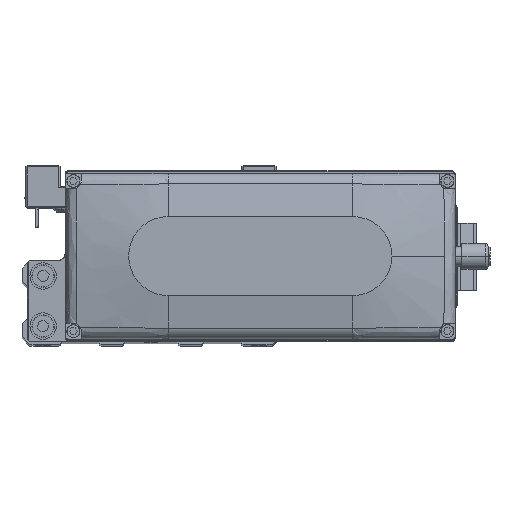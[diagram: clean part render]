
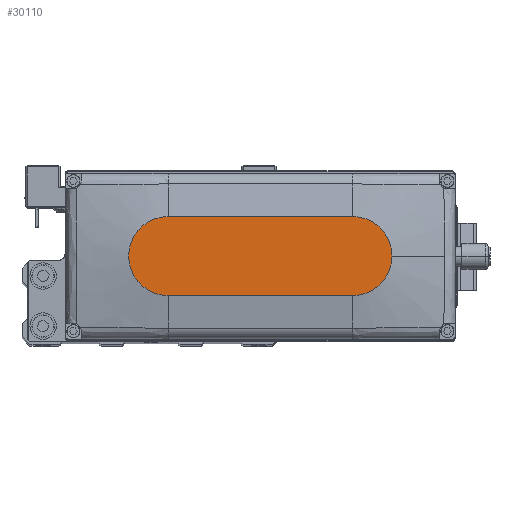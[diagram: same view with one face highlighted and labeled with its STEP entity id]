
A CAD part, top view. The second image highlights one B-rep face of the part: STEP entity #30110.
In plain terms, the highlighted planar face has unit normal (0, 0, 1).
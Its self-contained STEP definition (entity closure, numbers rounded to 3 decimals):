
#22 = CARTESIAN_POINT ( 'NONE',  ( 35., 0., 35. ) ) ;
#1144 = DIRECTION ( 'NONE',  ( 0., 0., 1. ) ) ;
#2171 = CARTESIAN_POINT ( 'NONE',  ( -35., 15., 35. ) ) ;
#2760 = DIRECTION ( 'NONE',  ( 1., 0., 0. ) ) ;
#3242 = DIRECTION ( 'NONE',  ( 1., 0., 0. ) ) ;
#4199 = FACE_OUTER_BOUND ( 'NONE', #34850, .T. ) ;
#4408 = VECTOR ( 'NONE', #3242, 1000. ) ;
#4426 = EDGE_CURVE ( 'NONE', #17805, #24352, #15835, .T. ) ;
#5738 = VERTEX_POINT ( 'NONE', #28177 ) ;
#6218 = CARTESIAN_POINT ( 'NONE',  ( -35., 0., 35. ) ) ;
#6792 = VERTEX_POINT ( 'NONE', #23490 ) ;
#7021 = EDGE_CURVE ( 'NONE', #30704, #6792, #30604, .T. ) ;
#7121 = ORIENTED_EDGE ( 'NONE', *, *, #7021, .T. ) ;
#11665 = AXIS2_PLACEMENT_3D ( 'NONE', #22, #12429, #24807 ) ;
#12146 = ORIENTED_EDGE ( 'NONE', *, *, #37987, .T. ) ;
#12429 = DIRECTION ( 'NONE',  ( 0., 0., 1. ) ) ;
#13058 = AXIS2_PLACEMENT_3D ( 'NONE', #6218, #18623, #31037 ) ;
#13562 = DIRECTION ( 'NONE',  ( 1., 0., 0. ) ) ;
#14587 = DIRECTION ( 'NONE',  ( -1., 0., 0. ) ) ;
#15162 = ORIENTED_EDGE ( 'NONE', *, *, #28265, .T. ) ;
#15835 = CIRCLE ( 'NONE', #38570, 15. ) ;
#16604 = PLANE ( 'NONE',  #21438 ) ;
#17508 = CARTESIAN_POINT ( 'NONE',  ( -35., 15., 35. ) ) ;
#17805 = VERTEX_POINT ( 'NONE', #34155 ) ;
#18217 = CARTESIAN_POINT ( 'NONE',  ( 35., 0., 35. ) ) ;
#18623 = DIRECTION ( 'NONE',  ( 0., 0., 1. ) ) ;
#18693 = LINE ( 'NONE', #31108, #4408 ) ;
#21438 = AXIS2_PLACEMENT_3D ( 'NONE', #29023, #1144, #13562 ) ;
#23490 = CARTESIAN_POINT ( 'NONE',  ( -35., -15., 35. ) ) ;
#24352 = VERTEX_POINT ( 'NONE', #27945 ) ;
#24807 = DIRECTION ( 'NONE',  ( 1., 0., 0. ) ) ;
#27945 = CARTESIAN_POINT ( 'NONE',  ( 35., 15., 35. ) ) ;
#28177 = CARTESIAN_POINT ( 'NONE',  ( 35., -15., 35. ) ) ;
#28265 = EDGE_CURVE ( 'NONE', #6792, #5738, #18693, .T. ) ;
#29023 = CARTESIAN_POINT ( 'NONE',  ( 0., 0., 35. ) ) ;
#29177 = CIRCLE ( 'NONE', #11665, 15. ) ;
#29505 = EDGE_CURVE ( 'NONE', #5738, #17805, #29177, .T. ) ;
#30041 = LINE ( 'NONE', #2171, #30119 ) ;
#30110 = ADVANCED_FACE ( 'NONE', ( #4199 ), #16604, .T. ) ;
#30119 = VECTOR ( 'NONE', #14587, 1000. ) ;
#30604 = CIRCLE ( 'NONE', #13058, 15. ) ;
#30633 = DIRECTION ( 'NONE',  ( 0., 0., 1. ) ) ;
#30704 = VERTEX_POINT ( 'NONE', #17508 ) ;
#31037 = DIRECTION ( 'NONE',  ( 1., 0., 0. ) ) ;
#31108 = CARTESIAN_POINT ( 'NONE',  ( -35., -15., 35. ) ) ;
#34155 = CARTESIAN_POINT ( 'NONE',  ( 50., 0., 35. ) ) ;
#34850 = EDGE_LOOP ( 'NONE', ( #12146, #7121, #15162, #38189, #35998 ) ) ;
#35998 = ORIENTED_EDGE ( 'NONE', *, *, #4426, .T. ) ;
#37987 = EDGE_CURVE ( 'NONE', #24352, #30704, #30041, .T. ) ;
#38189 = ORIENTED_EDGE ( 'NONE', *, *, #29505, .T. ) ;
#38570 = AXIS2_PLACEMENT_3D ( 'NONE', #18217, #30633, #2760 ) ;
